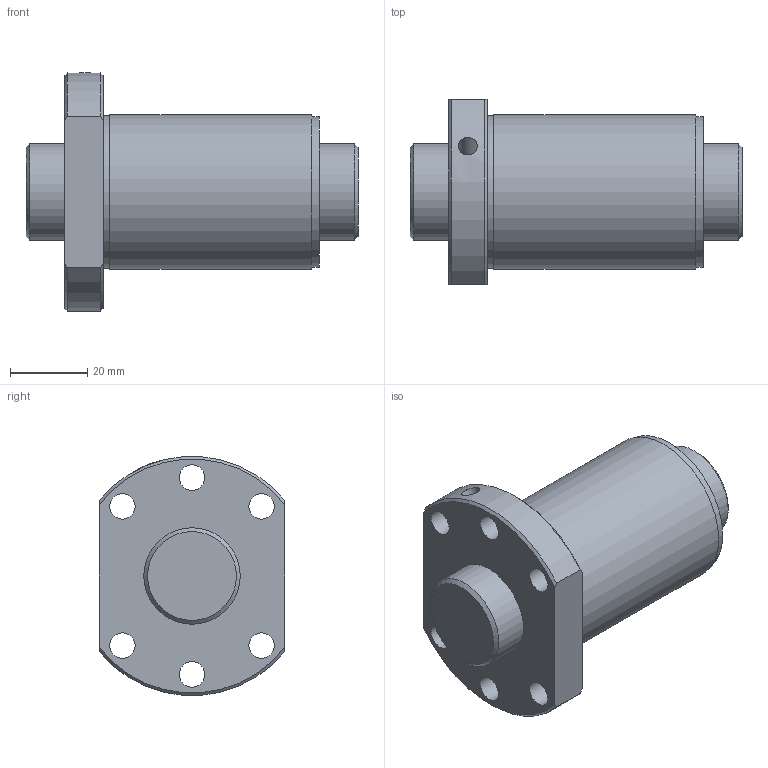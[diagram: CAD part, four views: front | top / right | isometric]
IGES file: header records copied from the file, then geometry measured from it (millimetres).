
Start section: Data from Parasolid IGES Translator 26.0.171, Copyright(c) 2006 Siemens PLM Software. All Rights Reserved.
Global section: file name: SDA2520V-3G0+86LC0(0G000).igs; native system: By Siemens PLM Incorporated; preprocessor: XPlus GENERIC/IGES 26.0.171; author: Noname; organization: Noname; date: 20240528.113049; units: millimetre
Bounding box: 86 x 48 x 61.8 mm (x, y, z)
Surface area: 27073.3 mm2 (no closed solid volume)
Topology: 0 solids, 0 shells, 31 faces, 142 edges, 121 vertices
Faces by surface type: revolution 22, extrusion 9
